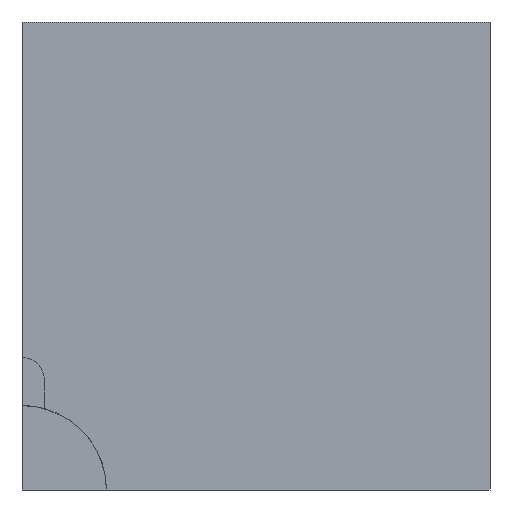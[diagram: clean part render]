
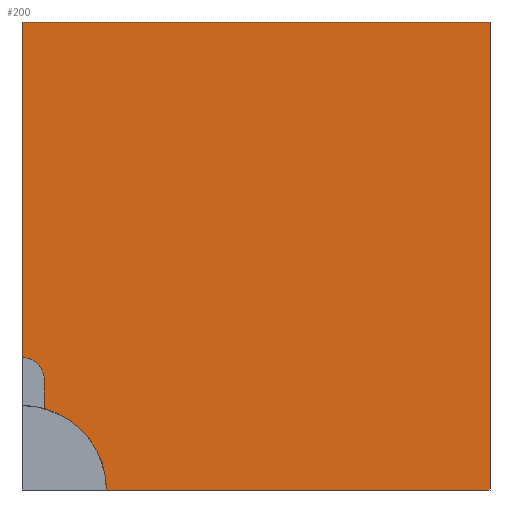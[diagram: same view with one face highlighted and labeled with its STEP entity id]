
A CAD part, left-side view. The second image highlights one B-rep face of the part: STEP entity #200.
In plain terms, the highlighted planar face has unit normal (-1, 0, 0).
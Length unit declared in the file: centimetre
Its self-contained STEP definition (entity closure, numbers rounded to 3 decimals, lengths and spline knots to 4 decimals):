
#7 = CARTESIAN_POINT ( 'NONE',  ( 0., 1000., 1000. ) ) ;
#10 = VERTEX_POINT ( 'NONE', #75 ) ;
#13 = CARTESIAN_POINT ( 'NONE',  ( 0., 952.5011, 64.5665 ) ) ;
#18 = CARTESIAN_POINT ( 'NONE',  ( 0., 1000., 1000. ) ) ;
#23 = ORIENTED_EDGE ( 'NONE', *, *, #671, .T. ) ;
#31 = CARTESIAN_POINT ( 'NONE',  ( 0., 952.5011, 174.0944 ) ) ;
#35 = EDGE_CURVE ( 'NONE', #74, #541, #237, .T. ) ;
#53 = DIRECTION ( 'NONE',  ( -1., 0., 0. ) ) ;
#70 = PLANE ( 'NONE',  #499 ) ;
#72 = EDGE_CURVE ( 'NONE', #377, #10, #102, .T. ) ;
#74 = VERTEX_POINT ( 'NONE', #31 ) ;
#75 = CARTESIAN_POINT ( 'NONE',  ( 0., 0., 0. ) ) ;
#81 = DIRECTION ( 'NONE',  ( 0., 0., 1. ) ) ;
#98 = DIRECTION ( 'NONE',  ( 0., 0., -1. ) ) ;
#102 = LINE ( 'NONE', #593, #362 ) ;
#119 = LINE ( 'NONE', #347, #216 ) ;
#137 = VERTEX_POINT ( 'NONE', #360 ) ;
#138 = CARTESIAN_POINT ( 'NONE',  ( 0., 1000., 0. ) ) ;
#178 = AXIS2_PLACEMENT_3D ( 'NONE', #676, #53, #558 ) ;
#200 = ADVANCED_FACE ( 'NONE', ( #635 ), #70, .F. ) ;
#207 = VERTEX_POINT ( 'NONE', #427 ) ;
#216 = VECTOR ( 'NONE', #231, 100. ) ;
#231 = DIRECTION ( 'NONE',  ( 0., -1., 0. ) ) ;
#232 = ORIENTED_EDGE ( 'NONE', *, *, #72, .F. ) ;
#237 = LINE ( 'NONE', #13, #443 ) ;
#243 = DIRECTION ( 'NONE',  ( 1., 0., 0. ) ) ;
#269 = ORIENTED_EDGE ( 'NONE', *, *, #35, .F. ) ;
#276 = DIRECTION ( 'NONE',  ( -1., 0., 0. ) ) ;
#291 = DIRECTION ( 'NONE',  ( 0., 0., -1. ) ) ;
#312 = CIRCLE ( 'NONE', #178, 180.4578 ) ;
#335 = CARTESIAN_POINT ( 'NONE',  ( 0., 1000., 235.8094 ) ) ;
#343 = EDGE_CURVE ( 'NONE', #567, #377, #119, .T. ) ;
#346 = LINE ( 'NONE', #398, #714 ) ;
#347 = CARTESIAN_POINT ( 'NONE',  ( 0., 1000., 1000. ) ) ;
#360 = CARTESIAN_POINT ( 'NONE',  ( 0., 1000., 283.3082 ) ) ;
#362 = VECTOR ( 'NONE', #98, 100. ) ;
#366 = DIRECTION ( 'NONE',  ( 0., -1., 0. ) ) ;
#377 = VERTEX_POINT ( 'NONE', #642 ) ;
#388 = CIRCLE ( 'NONE', #578, 47.4989 ) ;
#398 = CARTESIAN_POINT ( 'NONE',  ( 0., 1000., 1000. ) ) ;
#417 = LINE ( 'NONE', #138, #678 ) ;
#427 = CARTESIAN_POINT ( 'NONE',  ( 0., 819.5422, 0. ) ) ;
#443 = VECTOR ( 'NONE', #81, 100. ) ;
#444 = EDGE_CURVE ( 'NONE', #207, #74, #312, .T. ) ;
#447 = CARTESIAN_POINT ( 'NONE',  ( 0., 952.5011, 235.8094 ) ) ;
#462 = EDGE_CURVE ( 'NONE', #567, #137, #346, .T. ) ;
#470 = DIRECTION ( 'NONE',  ( 0., 0., -1. ) ) ;
#499 = AXIS2_PLACEMENT_3D ( 'NONE', #7, #243, #470 ) ;
#502 = DIRECTION ( 'NONE',  ( 0., 0., 1. ) ) ;
#539 = EDGE_CURVE ( 'NONE', #541, #137, #388, .T. ) ;
#541 = VERTEX_POINT ( 'NONE', #447 ) ;
#558 = DIRECTION ( 'NONE',  ( 0., 0., 1. ) ) ;
#560 = ORIENTED_EDGE ( 'NONE', *, *, #539, .F. ) ;
#567 = VERTEX_POINT ( 'NONE', #18 ) ;
#578 = AXIS2_PLACEMENT_3D ( 'NONE', #335, #276, #502 ) ;
#590 = ORIENTED_EDGE ( 'NONE', *, *, #462, .T. ) ;
#592 = EDGE_LOOP ( 'NONE', ( #269, #730, #23, #232, #693, #590, #560 ) ) ;
#593 = CARTESIAN_POINT ( 'NONE',  ( 0., 0., 1000. ) ) ;
#635 = FACE_OUTER_BOUND ( 'NONE', #592, .T. ) ;
#642 = CARTESIAN_POINT ( 'NONE',  ( 0., 0., 1000. ) ) ;
#671 = EDGE_CURVE ( 'NONE', #207, #10, #417, .T. ) ;
#676 = CARTESIAN_POINT ( 'NONE',  ( 0., 1000., 0. ) ) ;
#678 = VECTOR ( 'NONE', #366, 100. ) ;
#693 = ORIENTED_EDGE ( 'NONE', *, *, #343, .F. ) ;
#714 = VECTOR ( 'NONE', #291, 100. ) ;
#730 = ORIENTED_EDGE ( 'NONE', *, *, #444, .F. ) ;
